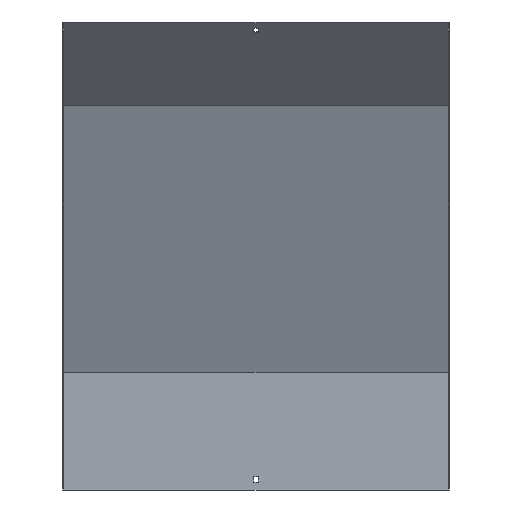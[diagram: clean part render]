
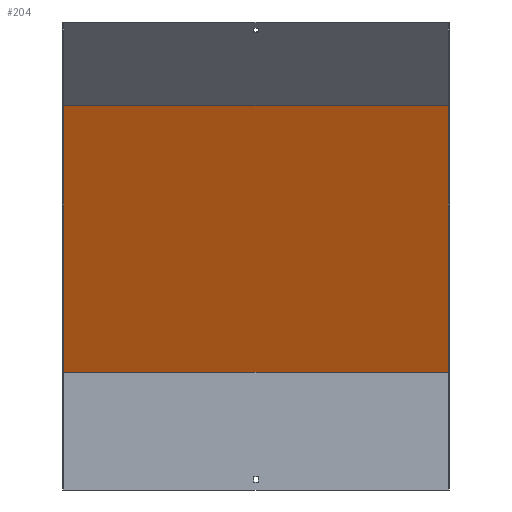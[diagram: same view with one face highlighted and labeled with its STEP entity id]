
A CAD part, front view. The second image highlights one B-rep face of the part: STEP entity #204.
In plain terms, the highlighted planar face has unit normal (0, -0.924, -0.383).
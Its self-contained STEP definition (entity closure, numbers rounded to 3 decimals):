
#37 = CARTESIAN_POINT ( 'NONE',  ( 300., -153.463, 598.834 ) ) ;
#39 = EDGE_CURVE ( 'NONE', #503, #306, #203, .T. ) ;
#43 = ORIENTED_EDGE ( 'NONE', *, *, #612, .T. ) ;
#50 = ORIENTED_EDGE ( 'NONE', *, *, #298, .F. ) ;
#60 = VERTEX_POINT ( 'NONE', #541 ) ;
#109 = EDGE_LOOP ( 'NONE', ( #50, #697, #800, #43 ) ) ;
#136 = CARTESIAN_POINT ( 'NONE',  ( 301.5, 18.5, 183.68 ) ) ;
#203 = LINE ( 'NONE', #468, #361 ) ;
#204 = ADVANCED_FACE ( 'NONE', ( #660 ), #329, .T. ) ;
#233 = CARTESIAN_POINT ( 'NONE',  ( 301.5, -153.463, 598.834 ) ) ;
#244 = LINE ( 'NONE', #707, #502 ) ;
#264 = VERTEX_POINT ( 'NONE', #613 ) ;
#298 = EDGE_CURVE ( 'NONE', #264, #60, #244, .T. ) ;
#306 = VERTEX_POINT ( 'NONE', #37 ) ;
#321 = LINE ( 'NONE', #136, #575 ) ;
#328 = DIRECTION ( 'NONE',  ( -1., 0., 0. ) ) ;
#329 = PLANE ( 'NONE',  #775 ) ;
#361 = VECTOR ( 'NONE', #665, 1000. ) ;
#387 = CARTESIAN_POINT ( 'NONE',  ( 300., 18.5, 183.68 ) ) ;
#442 = EDGE_CURVE ( 'NONE', #503, #264, #321, .T. ) ;
#468 = CARTESIAN_POINT ( 'NONE',  ( 300., 80.731, 33.44 ) ) ;
#502 = VECTOR ( 'NONE', #766, 1000. ) ;
#503 = VERTEX_POINT ( 'NONE', #387 ) ;
#541 = CARTESIAN_POINT ( 'NONE',  ( -300., -153.463, 598.834 ) ) ;
#547 = LINE ( 'NONE', #233, #797 ) ;
#565 = CARTESIAN_POINT ( 'NONE',  ( 301.5, 17.092, 187.08 ) ) ;
#574 = DIRECTION ( 'NONE',  ( -1., 0., 0. ) ) ;
#575 = VECTOR ( 'NONE', #328, 1000. ) ;
#612 = EDGE_CURVE ( 'NONE', #306, #60, #547, .T. ) ;
#613 = CARTESIAN_POINT ( 'NONE',  ( -300., 18.5, 183.68 ) ) ;
#624 = DIRECTION ( 'NONE',  ( 0., 0.383, -0.924 ) ) ;
#660 = FACE_OUTER_BOUND ( 'NONE', #109, .T. ) ;
#665 = DIRECTION ( 'NONE',  ( 0., -0.383, 0.924 ) ) ;
#697 = ORIENTED_EDGE ( 'NONE', *, *, #442, .F. ) ;
#707 = CARTESIAN_POINT ( 'NONE',  ( -300., 80.731, 33.44 ) ) ;
#766 = DIRECTION ( 'NONE',  ( 0., -0.383, 0.924 ) ) ;
#775 = AXIS2_PLACEMENT_3D ( 'NONE', #565, #822, #624 ) ;
#797 = VECTOR ( 'NONE', #574, 1000. ) ;
#800 = ORIENTED_EDGE ( 'NONE', *, *, #39, .T. ) ;
#822 = DIRECTION ( 'NONE',  ( 0., -0.924, -0.383 ) ) ;
